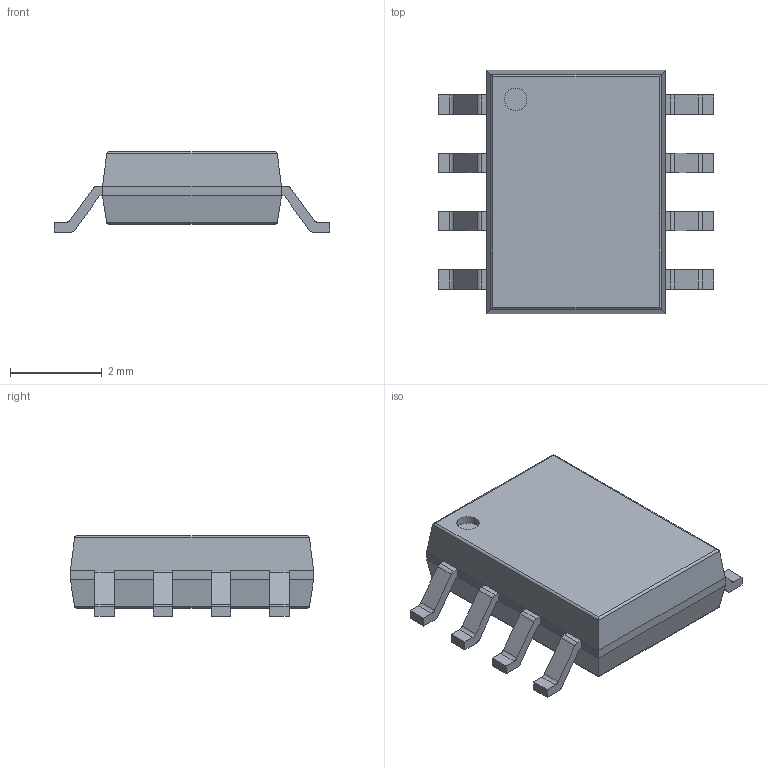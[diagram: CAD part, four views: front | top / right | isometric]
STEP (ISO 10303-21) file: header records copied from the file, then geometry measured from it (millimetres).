
FILE_DESCRIPTION(('FreeCAD Model'),'2;1');
FILE_NAME('/var/www/3D/0T/921281.1.1.stp','2021-04-27T09:52:46',( 'Author'),(''),'Open CASCADE STEP processor 6.9','FreeCAD','Unknown' );
FILE_SCHEMA(('AUTOMOTIVE_DESIGN { 1 0 10303 214 1 1 1 1 }'));
Length unit declared in the file: millimetre
Products named in the file (3): ASSEMBLY; Body; PinsArrayLR
Assembly tree (2 placements, depth 2):
  ASSEMBLY
    Body
    PinsArrayLR
Bounding box: 6 x 5.3 x 1.75 mm (x, y, z)
Volume: 32.3 mm3; surface area: 82.2 mm2
Topology: 9 solids, 9 shells, 128 faces, 311 edges, 202 vertices
Faces by surface type: plane 95, cylinder 33
Full cylindrical faces by diameter (mm): 0.487 x1
Entity records: 8011 total; most frequent: CARTESIAN_POINT 1558, DIRECTION 1193, LINE 789, VECTOR 789, ORIENTED_EDGE 622, PCURVE 622, DEFINITIONAL_REPRESENTATION 622, EDGE_CURVE 311
